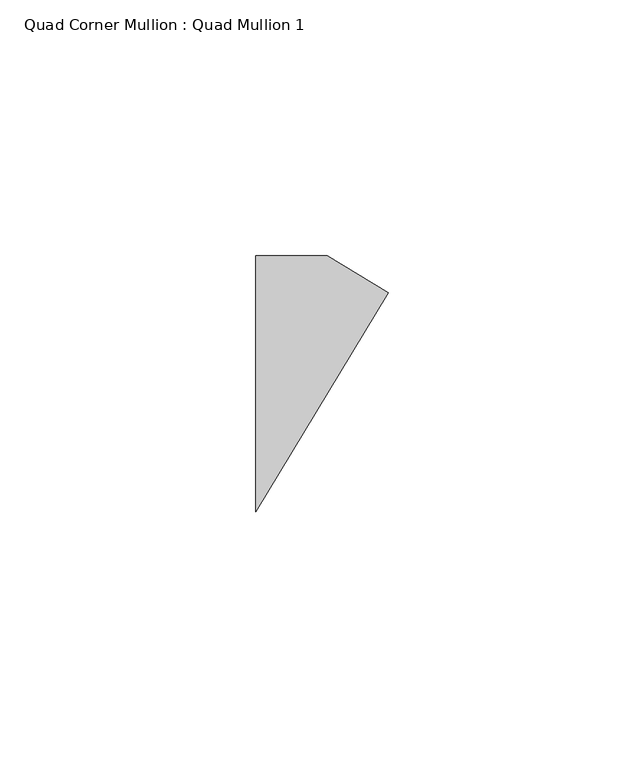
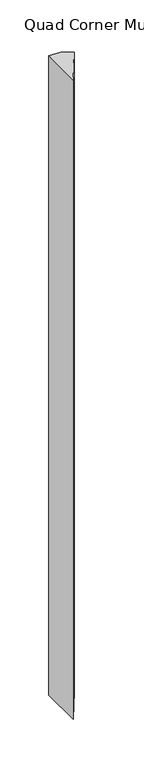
"""IFC4 building model written with IfcOpenShell, lengths in millimetres: member geometry, Quad Corner Mullion : Quad Mullion 1."""

from ifc_helpers import new_model, si_unit, frame, origin, place, context, project, spatial, polyline, outline, extrude, source, transform, mapped, element, save


def quad_corner_mullion_quad_mullion_1_3e0320a3(model_context):
    return source(origin(), model_context, "Body", "SweptSolid", [
        extrude(outline(polyline([(18.9158712, 17.7729457), (-6.9776631, -25.0), (-6.9776631, 25.0), (6.9776631, 25.0), (18.9158712, 17.7729457)])), frame((0.0, 0.0, -800.0), z_axis=(0.0, 0.0, 1.0), x_axis=(1.0, 0.0, 0.0)), (0.0, 0.0, 1.0), 800.0),
    ])


if __name__ == "__main__":
    model = new_model("IFC4")
    model_context = context("Model", 3, world=origin())
    ifc_project = project(units=[si_unit("LENGTHUNIT", "METRE", prefix="MILLI")], contexts=[model_context])
    site = spatial("IfcSite", under=ifc_project)
    building = spatial("IfcBuilding", under=site)
    placement = place(None, origin())
    quad_corner_mullion_quad_mullion_1_shape = quad_corner_mullion_quad_mullion_1_3e0320a3(model_context)
    element("IfcMember", 1, ObjectType="Quad Corner Mullion : Quad Mullion 1", at=placement, inside=building, context=model_context, shape_type="MappedRepresentation", body=[
        mapped(quad_corner_mullion_quad_mullion_1_shape, transform((0.0, 0.0, 0.0), x_axis=(1.0, 0.0, 0.0), y_axis=(0.0, 1.0, 0.0), z_axis=(0.0, 0.0, 1.0))),
    ])
    save(model, "model.ifc")
